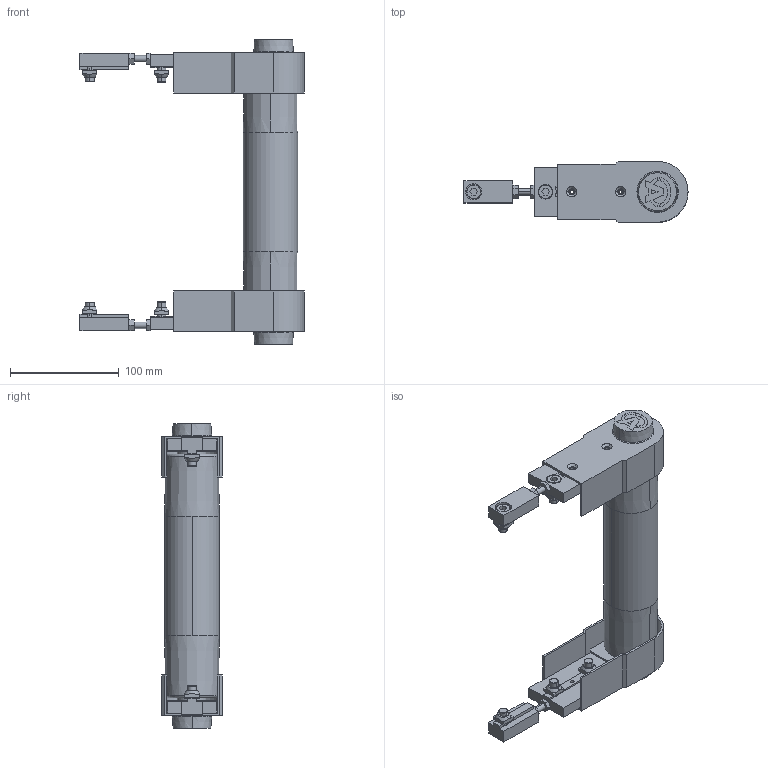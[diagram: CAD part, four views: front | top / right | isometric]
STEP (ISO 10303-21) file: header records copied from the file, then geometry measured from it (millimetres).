
FILE_DESCRIPTION (( 'STEP AP203' ), '1' );
FILE_NAME ('084.050.KIC.STEP', '2018-03-12T14:57:05', ( '' ), ( '' ), 'SwSTEP 2.0', 'SolidWorks 2016', '' );
FILE_SCHEMA (( 'CONFIG_CONTROL_DESIGN' ));
Length unit declared in the file: millimetre
Products named in the file (10): 084.802.008; 084.802.023_084.802.023; 084.302.000 DADI ALUSIC 13x13_084.302.004; 084.802.017_084.802.017; 084.811.004; 084.810.001; 084.807.004_084.807.004; 084.301.000 VITI ALUSIC_084.301.003; 084.815.103_Default<A macchina>; 084.050.KIC
Assembly tree (25 placements, depth 2):
  084.050.KIC
    084.807.004_084.807.004  x2
    084.802.017_084.802.017  x2
    084.811.004  x2
    084.815.103_Default<A macchina>
    084.810.001  x2
    084.802.008  x2
    084.802.023_084.802.023  x2
    084.301.000 VITI ALUSIC_084.301.003  x6
    084.302.000 DADI ALUSIC 13x13_084.302.004  x6
Bounding box: 206 x 56 x 280 mm (x, y, z)
Volume: 420606.6 mm3; surface area: 271280.4 mm2
Topology: 31 solids, 33 shells, 874 faces, 2200 edges, 1436 vertices
Faces by surface type: plane 422, cylinder 234, torus 80, cone 68, bspline 62, sphere 8
Entity records: 14534 total; most frequent: CARTESIAN_POINT 2831, DIRECTION 2188, ORIENTED_EDGE 2092, EDGE_CURVE 1046, AXIS2_PLACEMENT_3D 820, VERTEX_POINT 687, LINE 548, VECTOR 548
